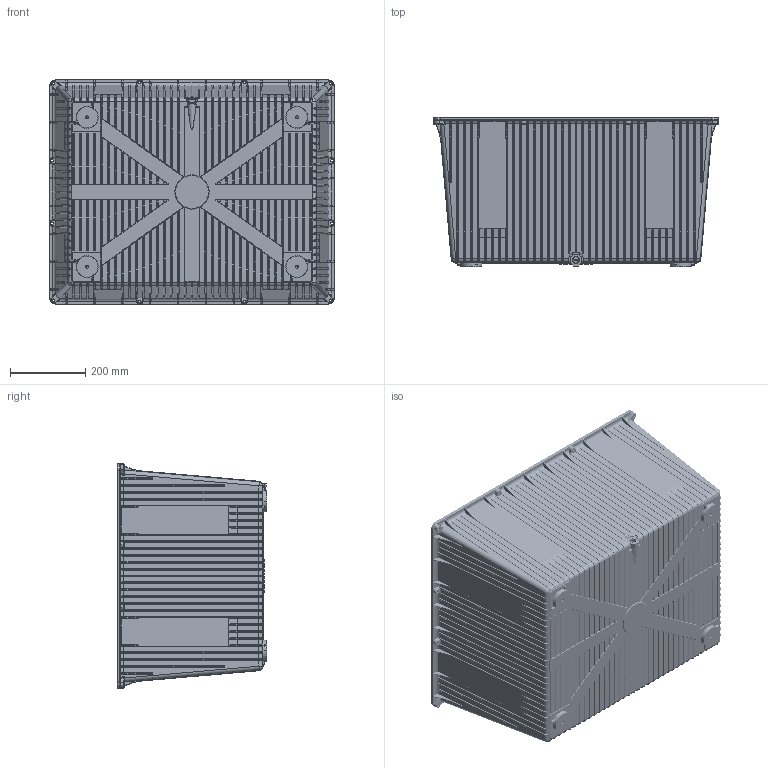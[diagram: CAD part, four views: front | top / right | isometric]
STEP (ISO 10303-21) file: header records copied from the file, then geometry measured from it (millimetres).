
FILE_DESCRIPTION((''),'2;1');
FILE_NAME('BAL0130_ALUBEHAELTER-NG130_ASM','2017-01-23T',('JZis'),(''),'PRO/ENGINEER BY PARAMETRIC TECHNOLOGY CORPORATION, 2014000','PRO/ENGINEER BY PARAMETRIC TECHNOLOGY CORPORATION, 2014000','');
FILE_SCHEMA(('CONFIG_CONTROL_DESIGN'));
Products named in the file (2): BALR0130D_AF1; BAL0130_ALUBEHAELTER-NG130_ASM
Assembly tree (1 placements, depth 2):
  BAL0130_ALUBEHAELTER-NG130_ASM
    BALR0130D_AF1
Bounding box: 757 x 396 x 597 mm (x, y, z)
Volume: 8959192.1 mm3; surface area: 2775931.4 mm2
Topology: 1 solids, 1 shells, 8415 faces, 19487 edges, 11232 vertices
Faces by surface type: plane 2640, cylinder 2613, bspline 1772, torus 528, sphere 454, cone 344, extrusion 64
Entity records: 359815 total; most frequent: CARTESIAN_POINT 181388, ORIENTED_EDGE 38958, DIRECTION 34630, EDGE_CURVE 19479, AXIS2_PLACEMENT_3D 12388, VERTEX_POINT 11232, VECTOR 9854, LINE 9790
